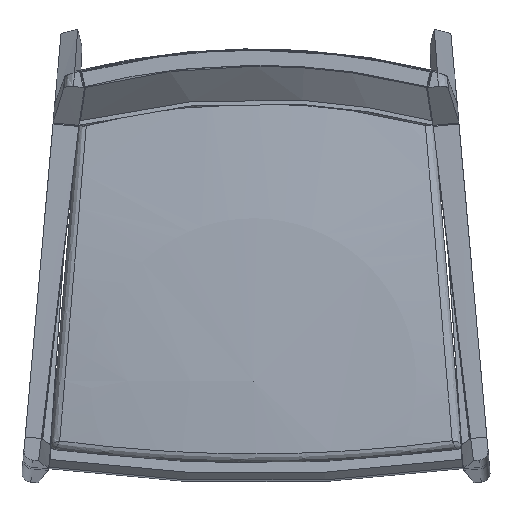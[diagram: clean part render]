
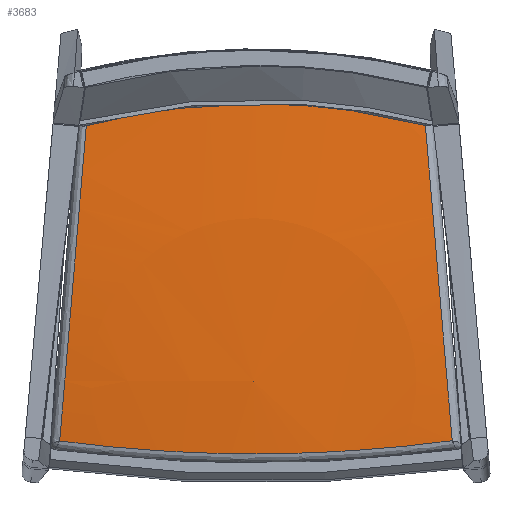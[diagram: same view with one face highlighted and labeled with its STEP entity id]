
A CAD part, top view. The second image highlights one B-rep face of the part: STEP entity #3683.
In plain terms, the highlighted spherical face has radius 3039.64 mm.
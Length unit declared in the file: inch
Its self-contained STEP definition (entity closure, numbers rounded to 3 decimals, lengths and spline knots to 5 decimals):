
#117=CIRCLE('',#3953,119.67089);
#162=SPHERICAL_SURFACE('',#3952,119.67089);
#294=FACE_OUTER_BOUND('',#533,.T.);
#533=EDGE_LOOP('',(#2481,#2482,#2483,#2484,#2485,#2486,#2487,#2488,#2489));
#1246=B_SPLINE_CURVE_WITH_KNOTS('',3,(#4908,#4909,#4910,#4911,#4912),
 .UNSPECIFIED.,.F.,.F.,(4,1,4),(0.43653,9.22132,10.57898),
 .UNSPECIFIED.);
#1247=B_SPLINE_CURVE_WITH_KNOTS('',3,(#4914,#4915,#4916,#4917),
 .UNSPECIFIED.,.F.,.F.,(4,4),(0.32272,17.71626),
 .UNSPECIFIED.);
#1248=B_SPLINE_CURVE_WITH_KNOTS('',3,(#4919,#4920,#4921,#4922,#4923,#4924,
#4925),.UNSPECIFIED.,.F.,.F.,(4,3,4),(-0.00002,4.40806,
8.72227),.UNSPECIFIED.);
#1249=B_SPLINE_CURVE_WITH_KNOTS('',3,(#4927,#4928,#4929,#4930),
 .UNSPECIFIED.,.F.,.F.,(4,4),(0.33312,9.05583),
 .UNSPECIFIED.);
#1250=B_SPLINE_CURVE_WITH_KNOTS('',3,(#4932,#4933,#4934,#4935),
 .UNSPECIFIED.,.F.,.F.,(4,4),(3.54053,17.84243),
 .UNSPECIFIED.);
#1251=B_SPLINE_CURVE_WITH_KNOTS('',3,(#4939,#4940,#4941,#4942),
 .UNSPECIFIED.,.F.,.F.,(4,4),(0.4418,3.54053),
 .UNSPECIFIED.);
#1252=B_SPLINE_CURVE_WITH_KNOTS('',3,(#4943,#4944,#4945,#4946,#4947),
 .UNSPECIFIED.,.F.,.F.,(4,1,4),(10.57898,16.30421,20.7211),
 .UNSPECIFIED.);
#1516=VERTEX_POINT('',#4906);
#1517=VERTEX_POINT('',#4907);
#1518=VERTEX_POINT('',#4913);
#1519=VERTEX_POINT('',#4918);
#1520=VERTEX_POINT('',#4926);
#1521=VERTEX_POINT('',#4931);
#1522=VERTEX_POINT('',#4936);
#1523=VERTEX_POINT('',#4938);
#1895=EDGE_CURVE('',#1516,#1517,#1246,.T.);
#1896=EDGE_CURVE('',#1518,#1516,#1247,.T.);
#1897=EDGE_CURVE('',#1519,#1518,#1248,.T.);
#1898=EDGE_CURVE('',#1520,#1519,#1249,.T.);
#1899=EDGE_CURVE('',#1521,#1520,#1250,.T.);
#1900=EDGE_CURVE('',#1522,#1521,#117,.T.);
#1901=EDGE_CURVE('',#1523,#1521,#1251,.T.);
#1902=EDGE_CURVE('',#1517,#1523,#1252,.T.);
#2481=ORIENTED_EDGE('',*,*,#1895,.F.);
#2482=ORIENTED_EDGE('',*,*,#1896,.F.);
#2483=ORIENTED_EDGE('',*,*,#1897,.F.);
#2484=ORIENTED_EDGE('',*,*,#1898,.F.);
#2485=ORIENTED_EDGE('',*,*,#1899,.F.);
#2486=ORIENTED_EDGE('',*,*,#1900,.F.);
#2487=ORIENTED_EDGE('',*,*,#1900,.T.);
#2488=ORIENTED_EDGE('',*,*,#1901,.F.);
#2489=ORIENTED_EDGE('',*,*,#1902,.F.);
#3683=ADVANCED_FACE('',(#294),#162,.T.);
#3952=AXIS2_PLACEMENT_3D('',#4905,#4189,#4190);
#3953=AXIS2_PLACEMENT_3D('',#4937,#4191,#4192);
#4189=DIRECTION('center_axis',(0.,0.,1.));
#4190=DIRECTION('ref_axis',(1.,0.,0.));
#4191=DIRECTION('center_axis',(0.,-1.,0.));
#4192=DIRECTION('ref_axis',(-1.,0.,0.));
#4905=CARTESIAN_POINT('Origin',(-0.148,5.22941,-102.05401));
#4906=CARTESIAN_POINT('',(10.13121,2.14576,17.13472));
#4907=CARTESIAN_POINT('',(-0.01219,1.46918,17.55772));
#4908=CARTESIAN_POINT('Ctrl Pts',(10.13116,2.14587,17.13472));
#4909=CARTESIAN_POINT('Ctrl Pts',(7.22621,1.7588,17.37528));
#4910=CARTESIAN_POINT('Ctrl Pts',(3.83713,1.50219,17.53506));
#4911=CARTESIAN_POINT('Ctrl Pts',(0.44225,1.46954,17.55722));
#4912=CARTESIAN_POINT('Ctrl Pts',(-0.01219,1.46918,17.55772));
#4913=CARTESIAN_POINT('',(8.6528,19.52007,16.4342));
#4914=CARTESIAN_POINT('Ctrl Pts',(8.65244,19.5195,16.43426));
#4915=CARTESIAN_POINT('Ctrl Pts',(9.14401,13.75577,17.09301));
#4916=CARTESIAN_POINT('Ctrl Pts',(9.63903,7.9439,17.32733));
#4917=CARTESIAN_POINT('Ctrl Pts',(10.13157,2.1459,17.1347));
#4918=CARTESIAN_POINT('',(-0.0217,20.55674,16.6312));
#4919=CARTESIAN_POINT('Ctrl Pts',(-0.0217,20.55674,16.6312));
#4920=CARTESIAN_POINT('Ctrl Pts',(1.45384,20.55759,16.62958));
#4921=CARTESIAN_POINT('Ctrl Pts',(2.92935,20.46885,16.61184));
#4922=CARTESIAN_POINT('Ctrl Pts',(4.39393,20.29185,16.57824));
#4923=CARTESIAN_POINT('Ctrl Pts',(5.82733,20.11861,16.54536));
#4924=CARTESIAN_POINT('Ctrl Pts',(7.25025,19.86083,16.49728));
#4925=CARTESIAN_POINT('Ctrl Pts',(8.65249,19.5197,16.43423));
#4926=CARTESIAN_POINT('',(-8.69479,19.51192,16.45375));
#4927=CARTESIAN_POINT('Ctrl Pts',(-8.69453,19.51197,16.45375));
#4928=CARTESIAN_POINT('Ctrl Pts',(-5.86069,20.20409,16.57478));
#4929=CARTESIAN_POINT('Ctrl Pts',(-2.94135,20.55584,16.63455));
#4930=CARTESIAN_POINT('Ctrl Pts',(-0.0217,20.55674,
16.6312));
#4931=CARTESIAN_POINT('',(-9.89704,5.22941,17.21914));
#4932=CARTESIAN_POINT('Ctrl Pts',(-9.89704,5.22941,17.21914));
#4933=CARTESIAN_POINT('Ctrl Pts',(-9.49642,9.99988,17.25184));
#4934=CARTESIAN_POINT('Ctrl Pts',(-9.09479,14.77213,16.99624));
#4935=CARTESIAN_POINT('Ctrl Pts',(-8.69502,19.51174,16.45374));
#4936=CARTESIAN_POINT('',(-0.148,5.22941,17.61688));
#4937=CARTESIAN_POINT('Origin',(-0.148,5.22941,-102.05401));
#4938=CARTESIAN_POINT('',(-10.15727,2.12921,17.15725));
#4939=CARTESIAN_POINT('Ctrl Pts',(-10.15727,2.12921,17.15726));
#4940=CARTESIAN_POINT('Ctrl Pts',(-10.07059,3.1623,17.19143));
#4941=CARTESIAN_POINT('Ctrl Pts',(-9.98384,4.19581,17.21205));
#4942=CARTESIAN_POINT('Ctrl Pts',(-9.89704,5.22941,17.21914));
#4943=CARTESIAN_POINT('Ctrl Pts',(-0.01219,1.46918,17.55772));
#4944=CARTESIAN_POINT('Ctrl Pts',(-1.92857,1.46764,17.55983));
#4945=CARTESIAN_POINT('Ctrl Pts',(-5.32359,1.59118,17.48595));
#4946=CARTESIAN_POINT('Ctrl Pts',(-8.69605,1.93718,17.27494));
#4947=CARTESIAN_POINT('Ctrl Pts',(-10.15727,2.12921,17.15725));
